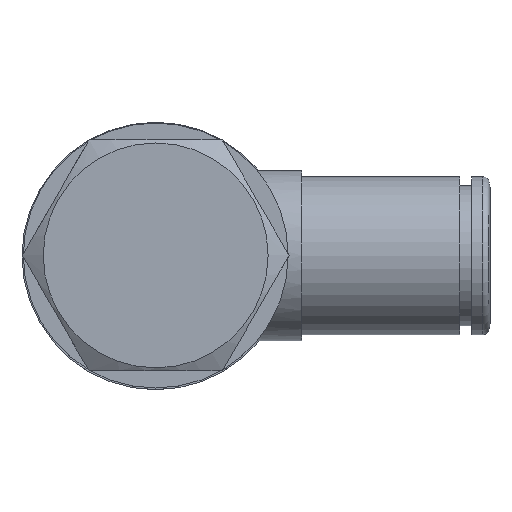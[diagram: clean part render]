
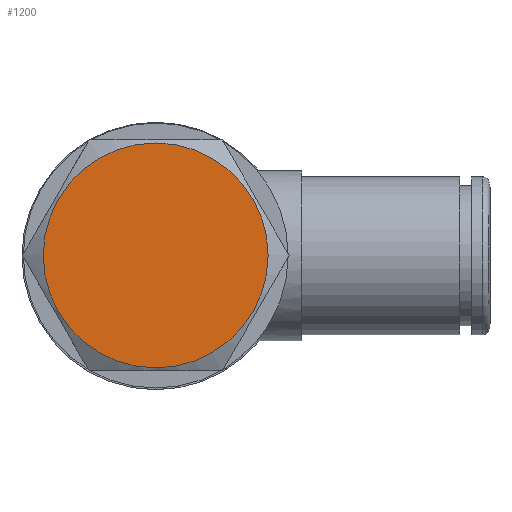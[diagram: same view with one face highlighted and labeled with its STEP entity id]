
A CAD part, top view. The second image highlights one B-rep face of the part: STEP entity #1200.
In plain terms, the highlighted planar face has unit normal (0, 0, 1).
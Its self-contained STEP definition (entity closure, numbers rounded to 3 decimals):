
#1200=ADVANCED_FACE('', (#1210), #1220, .T.);
#5160=AXIS2_PLACEMENT_3D('Ax2Pl3d', #5170, #5180, #5190);
#5520=AXIS2_PLACEMENT_3D('Ax2Pl3d', #5530, #5540, #5550);
#5170=CARTESIAN_POINT('HicPkt', (14.38,20.335,
34.972));
#51610=CARTESIAN_POINT('', (14.38,11.085,34.972));
#5530=CARTESIAN_POINT('HicPkt', (23.63,20.335,
34.972));
#52600=CIRCLE('Circle', #5160, 9.25);
#5180=DIRECTION('Axis', (0.,0.,-1.));
#5190=DIRECTION('RefDirection', (-1.,-0.,0.));
#5540=DIRECTION('Axis', (0.,0.,1.));
#5550=DIRECTION('RefDirection', (1.,0.,-0.));
#57980=EDGE_CURVE('', #57990, #57990, #52600, .T.);
#60880=EDGE_LOOP('Edge_loop', (#60890));
#1210=FACE_OUTER_BOUND('Face_outer_bound', #60880, .T.);
#60890=ORIENTED_EDGE('', *, *, #57980, .F.);
#1220=PLANE('Plane', #5520);
#57990=VERTEX_POINT('', #51610);
